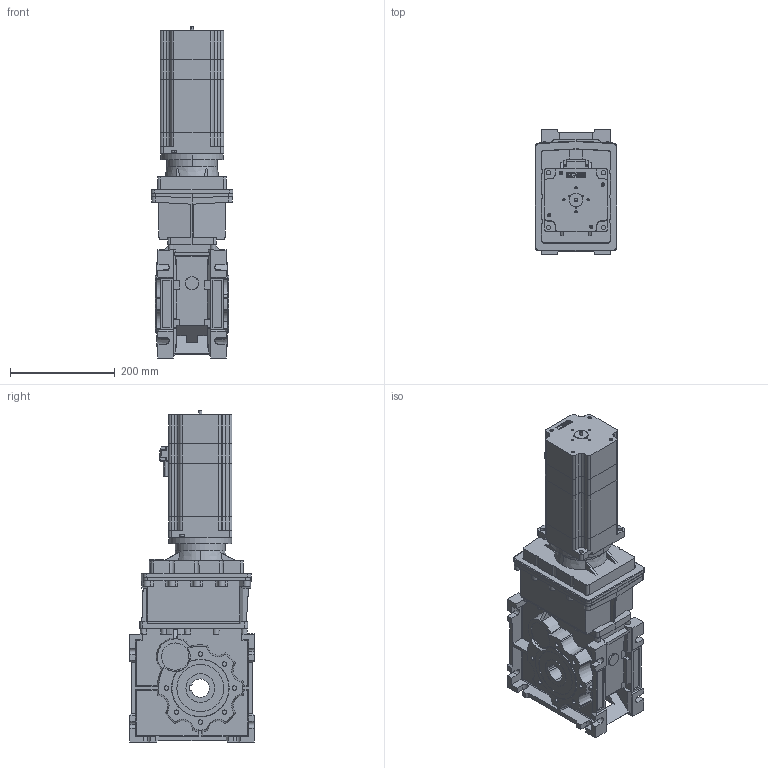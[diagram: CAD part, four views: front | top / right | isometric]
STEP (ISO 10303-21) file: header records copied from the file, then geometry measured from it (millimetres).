
FILE_DESCRIPTION (( 'STEP AP214' ), '1' );
FILE_NAME ('CMB903+BL400.48.120.STEP', '2021-05-05T08:41:53', ( '' ), ( '' ), 'SwSTEP 2.0', 'SolidWorks 2020', '' );
FILE_SCHEMA (( 'AUTOMOTIVE_DESIGN' ));
Length unit declared in the file: millimetre
Products named in the file (3): BL400.48.120 INT; CMB903+BL400.48.120; CMB903_U_D35_80B14
Assembly tree (2 placements, depth 2):
  CMB903+BL400.48.120
    CMB903_U_D35_80B14
    BL400.48.120 INT
Bounding box: 156 x 238 x 634.5 mm (x, y, z)
Volume: 9160648.2 mm3; surface area: 867790.9 mm2
Topology: 6 solids, 8 shells, 1402 faces, 3793 edges, 2470 vertices
Faces by surface type: plane 807, cylinder 324, cone 201, bspline 54, torus 16
Entity records: 49255 total; most frequent: CARTESIAN_POINT 14420, ORIENTED_EDGE 7522, DIRECTION 6748, EDGE_CURVE 3761, VERTEX_POINT 2470, LINE 2364, VECTOR 2364, AXIS2_PLACEMENT_3D 2192
